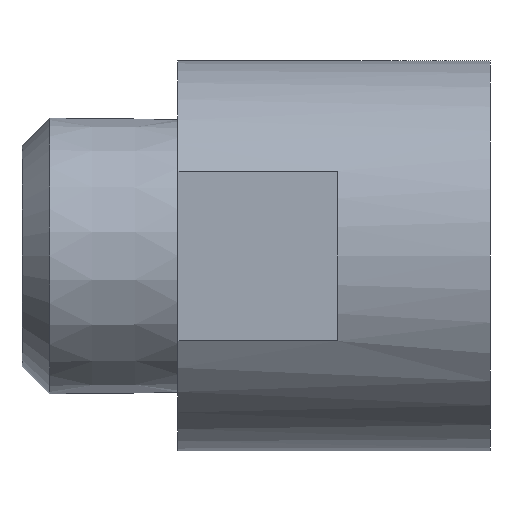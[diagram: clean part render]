
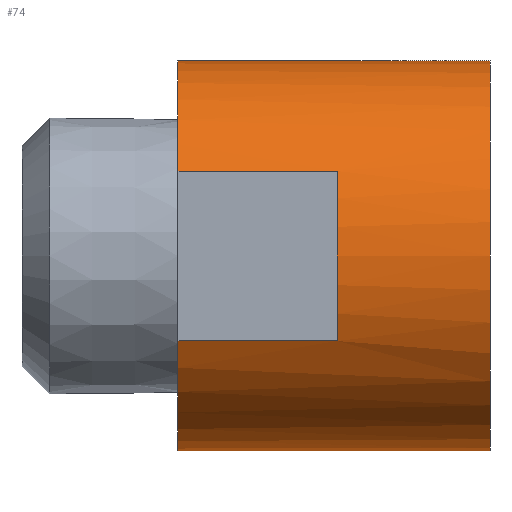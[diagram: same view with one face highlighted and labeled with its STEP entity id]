
A CAD part, front view. The second image highlights one B-rep face of the part: STEP entity #74.
In plain terms, the highlighted cylindrical face has radius 15.875 mm (diameter 31.75 mm), a partial arc.
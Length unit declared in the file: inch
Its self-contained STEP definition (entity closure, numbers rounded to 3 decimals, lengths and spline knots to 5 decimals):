
#3 = VERTEX_POINT ( 'NONE', #496 ) ;
#28 = VERTEX_POINT ( 'NONE', #510 ) ;
#37 = VERTEX_POINT ( 'NONE', #487 ) ;
#39 = VERTEX_POINT ( 'NONE', #509 ) ;
#40 = VERTEX_POINT ( 'NONE', #501 ) ;
#45 = VERTEX_POINT ( 'NONE', #488 ) ;
#74 = ADVANCED_FACE ( 'NONE', ( #357 ), #355, .T. ) ;
#127 = CARTESIAN_POINT ( 'NONE',  ( -1., -0.5625, 0.27243 ) ) ;
#131 = CARTESIAN_POINT ( 'NONE',  ( -1., 0., 0.625 ) ) ;
#156 = AXIS2_PLACEMENT_3D ( 'NONE', #476, #479, #472 ) ;
#157 = EDGE_CURVE ( 'NONE', #3, #40, #324, .T. ) ;
#166 = EDGE_CURVE ( 'NONE', #3, #37, #280, .T. ) ;
#182 = EDGE_CURVE ( 'NONE', #40, #437, #436, .T. ) ;
#193 = EDGE_CURVE ( 'NONE', #28, #39, #399, .T. ) ;
#198 = AXIS2_PLACEMENT_3D ( 'NONE', #538, #539, #540 ) ;
#201 = AXIS2_PLACEMENT_3D ( 'NONE', #267, #453, #537 ) ;
#203 = AXIS2_PLACEMENT_3D ( 'NONE', #570, #571, #572 ) ;
#208 = AXIS2_PLACEMENT_3D ( 'NONE', #450, #446, #449 ) ;
#224 = EDGE_CURVE ( 'NONE', #37, #45, #415, .T. ) ;
#228 = EDGE_CURVE ( 'NONE', #422, #437, #335, .T. ) ;
#233 = EDGE_CURVE ( 'NONE', #422, #28, #414, .T. ) ;
#234 = EDGE_CURVE ( 'NONE', #39, #45, #405, .T. ) ;
#267 = CARTESIAN_POINT ( 'NONE',  ( -1., 0., 0. ) ) ;
#280 = LINE ( 'NONE', #452, #402 ) ;
#284 = ORIENTED_EDGE ( 'NONE', *, *, #157, .T. ) ;
#288 = ORIENTED_EDGE ( 'NONE', *, *, #193, .T. ) ;
#296 = ORIENTED_EDGE ( 'NONE', *, *, #228, .F. ) ;
#324 = CIRCLE ( 'NONE', #208, 0.625 ) ;
#334 = ORIENTED_EDGE ( 'NONE', *, *, #224, .F. ) ;
#335 = CIRCLE ( 'NONE', #198, 0.625 ) ;
#355 = CYLINDRICAL_SURFACE ( 'NONE', #156, 0.625 ) ;
#357 = FACE_OUTER_BOUND ( 'NONE', #370, .T. ) ;
#370 = EDGE_LOOP ( 'NONE', ( #388, #284, #378, #296, #381, #288, #390, #334 ) ) ;
#378 = ORIENTED_EDGE ( 'NONE', *, *, #182, .T. ) ;
#381 = ORIENTED_EDGE ( 'NONE', *, *, #233, .T. ) ;
#388 = ORIENTED_EDGE ( 'NONE', *, *, #166, .F. ) ;
#390 = ORIENTED_EDGE ( 'NONE', *, *, #234, .T. ) ;
#399 = CIRCLE ( 'NONE', #203, 0.625 ) ;
#402 = VECTOR ( 'NONE', #454, 39.37008 ) ;
#403 = VECTOR ( 'NONE', #551, 39.37008 ) ;
#405 = LINE ( 'NONE', #552, #409 ) ;
#409 = VECTOR ( 'NONE', #553, 39.37008 ) ;
#414 = LINE ( 'NONE', #547, #403 ) ;
#415 = CIRCLE ( 'NONE', #201, 0.625 ) ;
#422 = VERTEX_POINT ( 'NONE', #127 ) ;
#429 = VECTOR ( 'NONE', #567, 39.37008 ) ;
#436 = LINE ( 'NONE', #562, #429 ) ;
#437 = VERTEX_POINT ( 'NONE', #131 ) ;
#446 = DIRECTION ( 'NONE',  ( -1., 0., 0. ) ) ;
#449 = DIRECTION ( 'NONE',  ( 0., 0., 1. ) ) ;
#450 = CARTESIAN_POINT ( 'NONE',  ( 0., 0., 0. ) ) ;
#452 = CARTESIAN_POINT ( 'NONE',  ( -1.63599, 0., -0.625 ) ) ;
#453 = DIRECTION ( 'NONE',  ( -1., 0., 0. ) ) ;
#454 = DIRECTION ( 'NONE',  ( -1., 0., 0. ) ) ;
#472 = DIRECTION ( 'NONE',  ( 0., 0., 1. ) ) ;
#476 = CARTESIAN_POINT ( 'NONE',  ( -1.63599, 0., 0. ) ) ;
#479 = DIRECTION ( 'NONE',  ( -1., 0., 0. ) ) ;
#487 = CARTESIAN_POINT ( 'NONE',  ( -1., 0., -0.625 ) ) ;
#488 = CARTESIAN_POINT ( 'NONE',  ( -1., -0.5625, -0.27243 ) ) ;
#496 = CARTESIAN_POINT ( 'NONE',  ( 0., 0., -0.625 ) ) ;
#501 = CARTESIAN_POINT ( 'NONE',  ( 0., 0., 0.625 ) ) ;
#509 = CARTESIAN_POINT ( 'NONE',  ( -0.49, -0.5625, -0.27243 ) ) ;
#510 = CARTESIAN_POINT ( 'NONE',  ( -0.49, -0.5625, 0.27243 ) ) ;
#537 = DIRECTION ( 'NONE',  ( 0., 0., 1. ) ) ;
#538 = CARTESIAN_POINT ( 'NONE',  ( -1., 0., 0. ) ) ;
#539 = DIRECTION ( 'NONE',  ( -1., 0., 0. ) ) ;
#540 = DIRECTION ( 'NONE',  ( 0., 0., 1. ) ) ;
#547 = CARTESIAN_POINT ( 'NONE',  ( -1.63599, -0.5625, 0.27243 ) ) ;
#551 = DIRECTION ( 'NONE',  ( 1., 0., 0. ) ) ;
#552 = CARTESIAN_POINT ( 'NONE',  ( -1.63599, -0.5625, -0.27243 ) ) ;
#553 = DIRECTION ( 'NONE',  ( -1., 0., 0. ) ) ;
#562 = CARTESIAN_POINT ( 'NONE',  ( -1.63599, 0., 0.625 ) ) ;
#567 = DIRECTION ( 'NONE',  ( -1., 0., 0. ) ) ;
#570 = CARTESIAN_POINT ( 'NONE',  ( -0.49, 0., 0. ) ) ;
#571 = DIRECTION ( 'NONE',  ( 1., 0., 0. ) ) ;
#572 = DIRECTION ( 'NONE',  ( 0., 0., 1. ) ) ;
